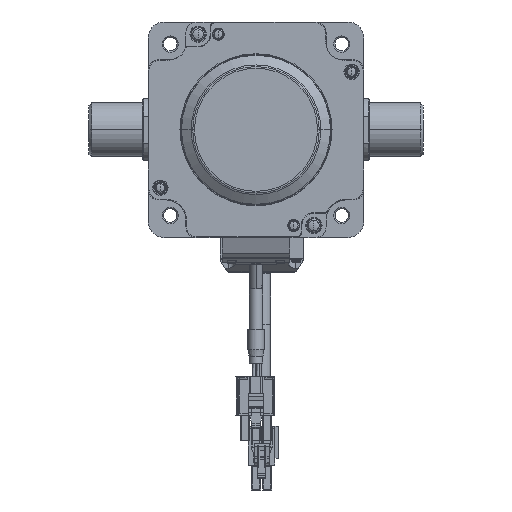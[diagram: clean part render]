
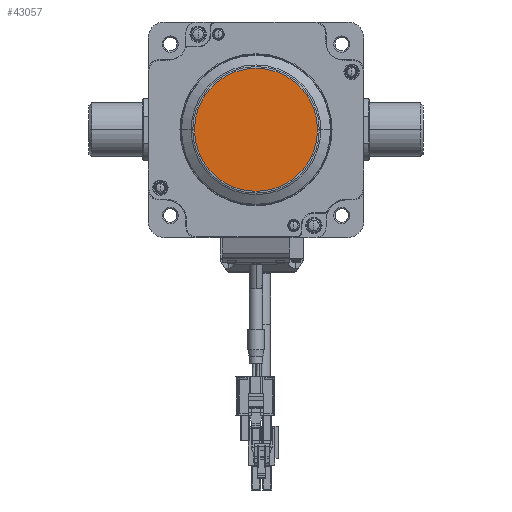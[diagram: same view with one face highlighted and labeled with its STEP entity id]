
A CAD part, front view. The second image highlights one B-rep face of the part: STEP entity #43057.
In plain terms, the highlighted planar face has unit normal (0, -1, 0) as drawn and (-1, 0, 0) by its records, which use the part's own axes.
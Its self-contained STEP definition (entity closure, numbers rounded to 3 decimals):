
#36038=CARTESIAN_POINT('',(-91.9,0.,0.));
#36039=DIRECTION('',(-1.,0.,0.));
#36040=DIRECTION('',(0.,0.,-1.));
#36041=AXIS2_PLACEMENT_3D('',#36038,#36039,#36040);
#36043=CARTESIAN_POINT('',(-91.9,0.,0.));
#36044=DIRECTION('',(-1.,0.,0.));
#36045=DIRECTION('',(0.,0.,1.));
#36046=AXIS2_PLACEMENT_3D('',#36043,#36044,#36045);
#37870=CARTESIAN_POINT('',(-91.9,0.,-22.84));
#37872=VERTEX_POINT('',#37870);
#37876=CARTESIAN_POINT('',(-91.9,0.,22.84));
#37877=VERTEX_POINT('',#37876);
#43047=CARTESIAN_POINT('',(-91.9,-22.,36.));
#43048=DIRECTION('',(1.,0.,0.));
#43049=DIRECTION('',(0.,0.,-1.));
#43050=AXIS2_PLACEMENT_3D('',#43047,#43048,#43049);
#43051=PLANE('',#43050);
#43052=ORIENTED_EDGE('',*,*,#43037,.F.);
#43054=ORIENTED_EDGE('',*,*,#43053,.F.);
#43055=EDGE_LOOP('',(#43052,#43054));
#43056=FACE_OUTER_BOUND('',#43055,.F.);
#43057=ADVANCED_FACE('',(#43056),#43051,.F.);
#36042=CIRCLE('',#36041,22.84);
#36047=CIRCLE('',#36046,22.84);
#43037=EDGE_CURVE('',#37872,#37877,#36042,.T.);
#43053=EDGE_CURVE('',#37877,#37872,#36047,.T.);
